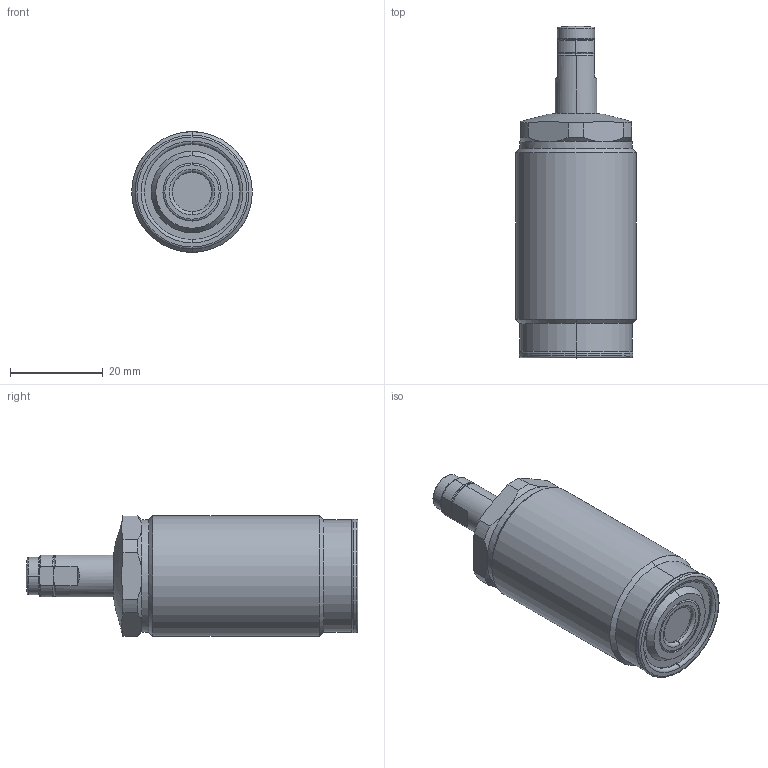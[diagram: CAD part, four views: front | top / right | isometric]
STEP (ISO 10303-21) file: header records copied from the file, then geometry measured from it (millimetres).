
FILE_DESCRIPTION(/* description */ (''),/* implementation_level */ '2;1');
FILE_NAME(/* name */ 'TNE26-M.stp',/* time_stamp */ '2025-01-11T08:23:47+08:00',/* author */ (''),/* organization */ (''),/* preprocessor_version */ 'ST-DEVELOPER v16.7',/* originating_system */ 'SIEMENS PLM Software NX 12.0',/* authorisation */ '');
FILE_SCHEMA (('AUTOMOTIVE_DESIGN { 1 0 10303 214 3 1 1 1 }'));
Length unit declared in the file: millimetre
Products named in the file (10): XLD-M6SP_pad; XLD-M6SP_pin; XLD-M6SP_contactbolt; XLD-M6SP_Oring; TNE26-M01957; TNE26-M04; TNE26-M03; TNE26-M05; XLDM6SP; TNE26_stp
Assembly tree (9 placements, depth 3):
  TNE26_stp
    TNE26-M05
    TNE26-M03
    TNE26-M04
    TNE26-M01957
    XLDM6SP
      XLD-M6SP_Oring
      XLD-M6SP_contactbolt
      XLD-M6SP_pin
      XLD-M6SP_pad
Bounding box: 26 x 71.5 x 26 mm (x, y, z)
Volume: 27299.8 mm3; surface area: 7096.3 mm2
Topology: 8 solids, 8 shells, 193 faces, 430 edges, 258 vertices
Faces by surface type: cylinder 59, torus 49, plane 44, cone 37, sphere 4
Full cylindrical faces by diameter (mm): 24.2 x1, 26 x1
Entity records: 6087 total; most frequent: CARTESIAN_POINT 1457, DIRECTION 1033, ORIENTED_EDGE 852, AXIS2_PLACEMENT_3D 456, EDGE_CURVE 426, VERTEX_POINT 258, CIRCLE 253, EDGE_LOOP 218
